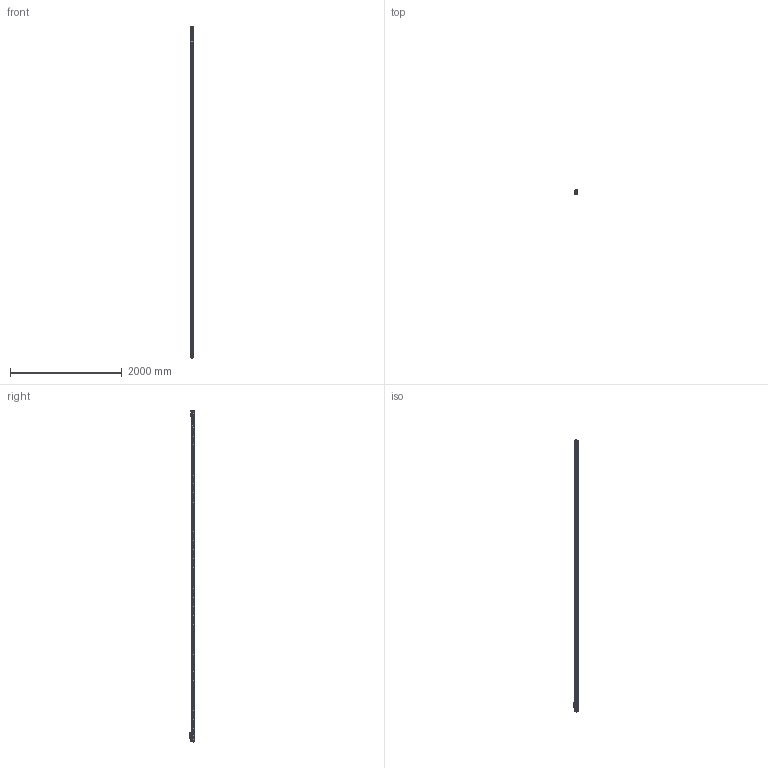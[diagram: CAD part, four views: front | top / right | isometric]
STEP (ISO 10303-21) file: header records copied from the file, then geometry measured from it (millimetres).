
FILE_DESCRIPTION(('Creo Elements/Direct Modeling STEP Export'),'2;1');
FILE_NAME('F-56.stp','2011-11-17T18:15:52',(''),(''),'Creo Elements/Direct Modeling STEP processor for AP214 (Solid Model)','Creo Elements/Direct Modeling 17.0C 05-Feb-2011 (C) Parametric Technology GmbH','');
FILE_SCHEMA(('AUTOMOTIVE_DESIGN { 1 0 10303 214 1 1 1 1 }'));
Length unit declared in the file: millimetre
Products named in the file (5): CABEZA; Modulo_izq_(K).1; Modulo_der_(14E); Modulos_intermedio_(FL-14).2; F-56
Assembly tree (5 placements, depth 2):
  F-56
    Modulos_intermedio_(FL-14).2  x2
    Modulo_der_(14E)
    Modulo_izq_(K).1
    CABEZA
Bounding box: 51.5 x 87.95 x 5935.6 mm (x, y, z)
Volume: 15152425.1 mm3; surface area: 1765844.4 mm2
Topology: 6 solids, 57 shells, 3271 faces, 9113 edges, 5859 vertices
Faces by surface type: cylinder 1472, plane 1291, cone 228, torus 151, bspline 89, extrusion 30, sphere 10
Entity records: 103726 total; most frequent: CARTESIAN_POINT 32476, ORIENTED_EDGE 15264, DIRECTION 13210, EDGE_CURVE 7626, VERTEX_POINT 4929, AXIS2_PLACEMENT_3D 4654, VECTOR 3902, LINE 3882
